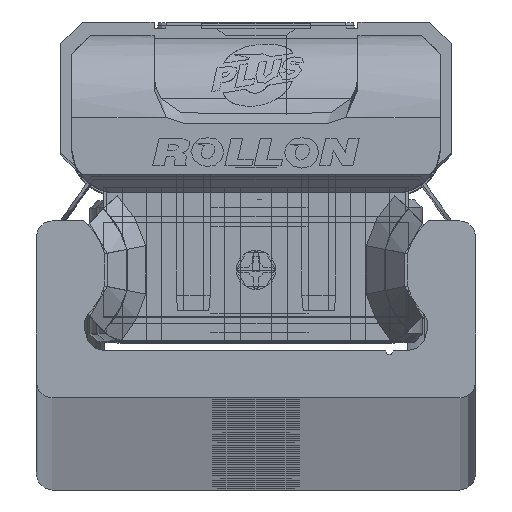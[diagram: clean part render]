
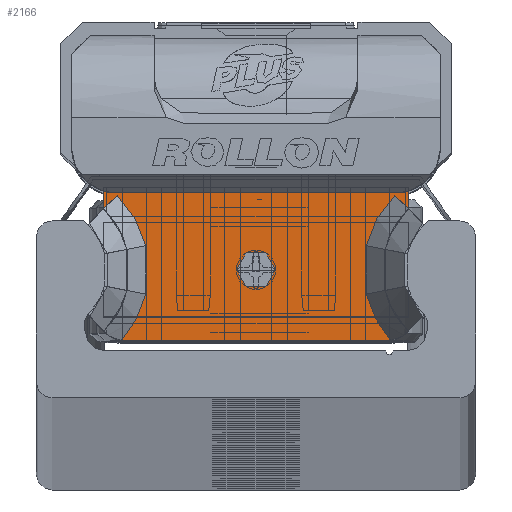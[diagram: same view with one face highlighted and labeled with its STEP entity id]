
A CAD part, top view. The second image highlights one B-rep face of the part: STEP entity #2166.
In plain terms, the highlighted planar face has unit normal (0, 0, 1) as drawn and (0, 0, -1) by its records, which use the part's own axes.
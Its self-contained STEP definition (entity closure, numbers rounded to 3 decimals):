
#2166 = ADVANCED_FACE( '', ( #4599, #4600 ), #4601, .F. );
#4599 = FACE_BOUND( '', #7186, .T. );
#4600 = FACE_OUTER_BOUND( '', #7187, .T. );
#4601 = PLANE( '', #7188 );
#7186 = EDGE_LOOP( '', ( #12892 ) );
#7187 = EDGE_LOOP( '', ( #12893, #12894, #12895, #12896, #12897, #12898, #12899, #12900, #12901, #12902, #12903, #12904, #12905, #12906 ) );
#7188 = AXIS2_PLACEMENT_3D( '', #12907, #12908, #12909 );
#12892 = ORIENTED_EDGE( '', *, *, #15659, .T. );
#12893 = ORIENTED_EDGE( '', *, *, #14225, .F. );
#12894 = ORIENTED_EDGE( '', *, *, #14795, .T. );
#12895 = ORIENTED_EDGE( '', *, *, #15708, .T. );
#12896 = ORIENTED_EDGE( '', *, *, #15217, .T. );
#12897 = ORIENTED_EDGE( '', *, *, #14753, .T. );
#12898 = ORIENTED_EDGE( '', *, *, #15709, .T. );
#12899 = ORIENTED_EDGE( '', *, *, #14630, .T. );
#12900 = ORIENTED_EDGE( '', *, *, #13685, .T. );
#12901 = ORIENTED_EDGE( '', *, *, #15518, .T. );
#12902 = ORIENTED_EDGE( '', *, *, #13488, .T. );
#12903 = ORIENTED_EDGE( '', *, *, #15521, .T. );
#12904 = ORIENTED_EDGE( '', *, *, #15184, .T. );
#12905 = ORIENTED_EDGE( '', *, *, #14634, .T. );
#12906 = ORIENTED_EDGE( '', *, *, #15476, .T. );
#12907 = CARTESIAN_POINT( '', ( 9.7, 4.89, -10.6 ) );
#12908 = DIRECTION( '', ( 0., 0., 1. ) );
#12909 = DIRECTION( '', ( 1., 0., 0. ) );
#13488 = EDGE_CURVE( '', #15842, #15863, #15865, .T. );
#13685 = EDGE_CURVE( '', #16218, #16216, #16219, .T. );
#14225 = EDGE_CURVE( '', #17130, #16750, #17132, .T. );
#14630 = EDGE_CURVE( '', #17766, #16218, #17767, .T. );
#14634 = EDGE_CURVE( '', #17772, #17773, #17774, .T. );
#14753 = EDGE_CURVE( '', #17947, #17500, #17948, .T. );
#14795 = EDGE_CURVE( '', #17130, #18011, #18013, .T. );
#15184 = EDGE_CURVE( '', #18559, #17772, #18560, .T. );
#15217 = EDGE_CURVE( '', #18601, #17947, #18606, .T. );
#15476 = EDGE_CURVE( '', #17773, #16750, #18928, .T. );
#15518 = EDGE_CURVE( '', #16216, #15842, #18974, .T. );
#15521 = EDGE_CURVE( '', #15863, #18559, #18977, .T. );
#15659 = EDGE_CURVE( '', #19141, #19141, #19142, .T. );
#15708 = EDGE_CURVE( '', #18011, #18601, #19193, .T. );
#15709 = EDGE_CURVE( '', #17500, #17766, #19194, .T. );
#15842 = VERTEX_POINT( '', #19375 );
#15863 = VERTEX_POINT( '', #19402 );
#15865 = LINE( '', #19405, #19406 );
#16216 = VERTEX_POINT( '', #19884 );
#16218 = VERTEX_POINT( '', #19887 );
#16219 = B_SPLINE_CURVE_WITH_KNOTS( '', 2, ( #19888, #19889, #19890 ), .UNSPECIFIED., .F., .F., ( 3, 3 ), ( 0., 1. ), .UNSPECIFIED. );
#16750 = VERTEX_POINT( '', #20615 );
#17130 = VERTEX_POINT( '', #21158 );
#17132 = LINE( '', #21161, #21162 );
#17500 = VERTEX_POINT( '', #21663 );
#17766 = VERTEX_POINT( '', #22024 );
#17767 = B_SPLINE_CURVE_WITH_KNOTS( '', 2, ( #22025, #22026, #22027, #22028, #22029 ), .UNSPECIFIED., .F., .F., ( 3, 2, 3 ), ( 0., 0.5, 1. ), .UNSPECIFIED. );
#17772 = VERTEX_POINT( '', #22038 );
#17773 = VERTEX_POINT( '', #22039 );
#17774 = B_SPLINE_CURVE_WITH_KNOTS( '', 2, ( #22040, #22041, #22042 ), .UNSPECIFIED., .F., .F., ( 3, 3 ), ( 0., 1. ), .UNSPECIFIED. );
#17947 = VERTEX_POINT( '', #22263 );
#17948 = LINE( '', #22264, #22265 );
#18011 = VERTEX_POINT( '', #22342 );
#18013 = CIRCLE( '', #22345, 2.8 );
#18559 = VERTEX_POINT( '', #23140 );
#18560 = B_SPLINE_CURVE_WITH_KNOTS( '', 2, ( #23141, #23142, #23143 ), .UNSPECIFIED., .F., .F., ( 3, 3 ), ( 0., 1. ), .UNSPECIFIED. );
#18601 = VERTEX_POINT( '', #23198 );
#18606 = CIRCLE( '', #23204, 2.8 );
#18928 = LINE( '', #23697, #23698 );
#18974 = B_SPLINE_CURVE_WITH_KNOTS( '', 2, ( #23753, #23754, #23755 ), .UNSPECIFIED., .F., .F., ( 3, 3 ), ( 0., 1. ), .UNSPECIFIED. );
#18977 = B_SPLINE_CURVE_WITH_KNOTS( '', 2, ( #23761, #23762, #23763 ), .UNSPECIFIED., .F., .F., ( 3, 3 ), ( 0.1, 1. ), .UNSPECIFIED. );
#19141 = VERTEX_POINT( '', #23980 );
#19142 = CIRCLE( '', #23981, 1.25 );
#19193 = LINE( '', #24058, #24059 );
#19194 = LINE( '', #24060, #24061 );
#19375 = CARTESIAN_POINT( '', ( 8.59, -4.893, -10.6 ) );
#19402 = CARTESIAN_POINT( '', ( -8.59, -4.893, -10.6 ) );
#19405 = CARTESIAN_POINT( '', ( 9.7, -4.89, -10.6 ) );
#19406 = VECTOR( '', #24213, 1000. );
#19884 = CARTESIAN_POINT( '', ( 7.031, -1.944, -10.6 ) );
#19887 = CARTESIAN_POINT( '', ( 7.031, 1.144, -10.6 ) );
#19888 = CARTESIAN_POINT( '', ( 7.031, 1.144, -10.6 ) );
#19889 = CARTESIAN_POINT( '', ( 6.929, -0.4, -10.6 ) );
#19890 = CARTESIAN_POINT( '', ( 7.031, -1.944, -10.6 ) );
#20615 = CARTESIAN_POINT( '', ( -9.7, 3.494, -10.6 ) );
#21158 = CARTESIAN_POINT( '', ( -9.7, 4.612, -10.6 ) );
#21161 = CARTESIAN_POINT( '', ( -9.7, 4.89, -10.6 ) );
#21162 = VECTOR( '', #25234, 1000. );
#21663 = CARTESIAN_POINT( '', ( 9.7, 3.497, -10.6 ) );
#22024 = CARTESIAN_POINT( '', ( 8.853, 4.366, -10.6 ) );
#22025 = CARTESIAN_POINT( '', ( 8.853, 4.366, -10.6 ) );
#22026 = CARTESIAN_POINT( '', ( 8.182, 3.708, -10.6 ) );
#22027 = CARTESIAN_POINT( '', ( 7.715, 2.883, -10.6 ) );
#22028 = CARTESIAN_POINT( '', ( 7.249, 2.058, -10.6 ) );
#22029 = CARTESIAN_POINT( '', ( 7.031, 1.144, -10.6 ) );
#22038 = CARTESIAN_POINT( '', ( -7.031, 1.144, -10.6 ) );
#22039 = CARTESIAN_POINT( '', ( -8.853, 4.366, -10.6 ) );
#22040 = CARTESIAN_POINT( '', ( -7.031, 1.144, -10.6 ) );
#22041 = CARTESIAN_POINT( '', ( -7.477, 3.018, -10.6 ) );
#22042 = CARTESIAN_POINT( '', ( -8.853, 4.366, -10.6 ) );
#22263 = CARTESIAN_POINT( '', ( 9.7, 4.612, -10.6 ) );
#22264 = CARTESIAN_POINT( '', ( 9.7, 4.89, -10.6 ) );
#22265 = VECTOR( '', #25954, 1000. );
#22342 = CARTESIAN_POINT( '', ( -8.95, 4.51, -10.6 ) );
#22345 = AXIS2_PLACEMENT_3D( '', #26021, #26022, #26023 );
#23140 = CARTESIAN_POINT( '', ( -7.031, -1.944, -10.6 ) );
#23141 = CARTESIAN_POINT( '', ( -7.031, -1.944, -10.6 ) );
#23142 = CARTESIAN_POINT( '', ( -6.929, -0.4, -10.6 ) );
#23143 = CARTESIAN_POINT( '', ( -7.031, 1.144, -10.6 ) );
#23198 = CARTESIAN_POINT( '', ( 8.95, 4.51, -10.6 ) );
#23204 = AXIS2_PLACEMENT_3D( '', #26565, #26566, #26567 );
#23697 = CARTESIAN_POINT( '', ( -8.853, 4.366, -10.6 ) );
#23698 = VECTOR( '', #26859, 1000. );
#23753 = CARTESIAN_POINT( '', ( 7.031, -1.944, -10.6 ) );
#23754 = CARTESIAN_POINT( '', ( 7.429, -3.615, -10.6 ) );
#23755 = CARTESIAN_POINT( '', ( 8.588, -4.89, -10.6 ) );
#23761 = CARTESIAN_POINT( '', ( -8.587, -4.89, -10.6 ) );
#23762 = CARTESIAN_POINT( '', ( -7.432, -3.63, -10.6 ) );
#23763 = CARTESIAN_POINT( '', ( -7.031, -1.944, -10.6 ) );
#23980 = CARTESIAN_POINT( '', ( 1.25, -0.39, -10.6 ) );
#23981 = AXIS2_PLACEMENT_3D( '', #27014, #27015, #27016 );
#24058 = CARTESIAN_POINT( '', ( 9.7, 4.51, -10.6 ) );
#24059 = VECTOR( '', #27034, 1000. );
#24060 = CARTESIAN_POINT( '', ( 9.7, 3.501, -10.6 ) );
#24061 = VECTOR( '', #27035, 1000. );
#24213 = DIRECTION( '', ( -1., 0., 0. ) );
#25234 = DIRECTION( '', ( 0., -1., 0. ) );
#25954 = DIRECTION( '', ( 0., -1., 0. ) );
#26021 = CARTESIAN_POINT( '', ( -8.95, 7.31, -10.6 ) );
#26022 = DIRECTION( '', ( 0., 0., 1. ) );
#26023 = DIRECTION( '', ( 1., 0., 0. ) );
#26565 = CARTESIAN_POINT( '', ( 8.95, 7.31, -10.6 ) );
#26566 = DIRECTION( '', ( 0., 0., 1. ) );
#26567 = DIRECTION( '', ( 1., 0., 0. ) );
#26859 = DIRECTION( '', ( -0.7, -0.714, 0. ) );
#27014 = CARTESIAN_POINT( '', ( 0., -0.39, -10.6 ) );
#27015 = DIRECTION( '', ( 0., 0., 1. ) );
#27016 = DIRECTION( '', ( 1., 0., 0. ) );
#27034 = DIRECTION( '', ( 1., 0., 0. ) );
#27035 = DIRECTION( '', ( -0.7, 0.714, 0. ) );
